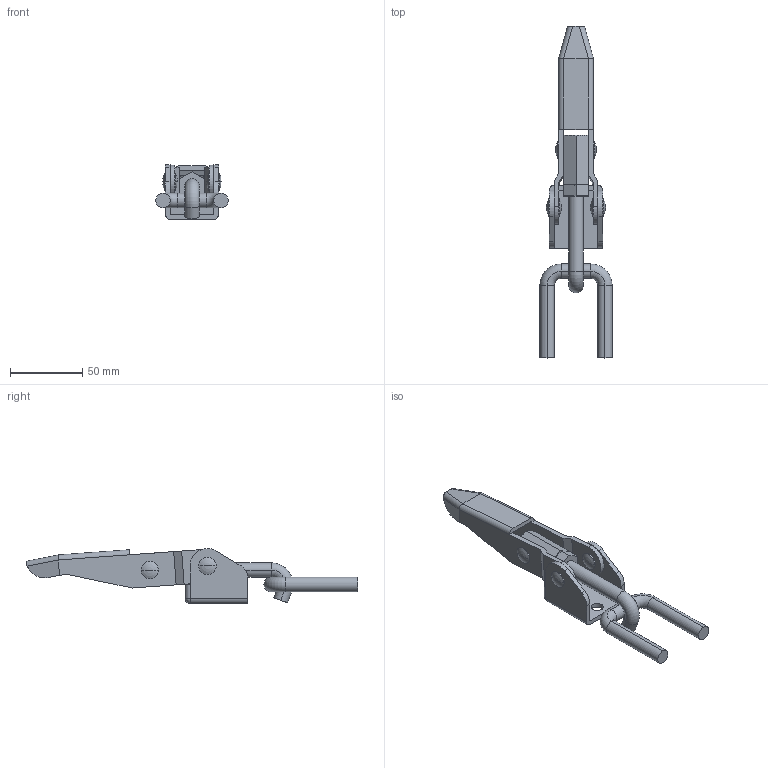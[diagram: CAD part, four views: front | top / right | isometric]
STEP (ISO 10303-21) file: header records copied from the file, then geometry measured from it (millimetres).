
FILE_DESCRIPTION(('CATIA V5 STEP Exchange'),'2;1');
FILE_NAME('D:\Model\toggle\toggle_standard\KJF_030_41F.stp','2005-06-24T03:14:36+00:00',('none'),('none'),'CATIA Version 5 Release 11 (IN-9)','CATIA V5 STEP AP203',' none');
FILE_SCHEMA(('CONFIG_CONTROL_DESIGN'));
Length unit declared in the file: millimetre
Products named in the file (1): Part1
Bounding box: 50 x 229.36 x 37.98 mm (x, y, z)
Volume: 62228.5 mm3; surface area: 38258.3 mm2
Topology: 9 solids, 9 shells, 178 faces, 438 edges, 270 vertices
Faces by surface type: cylinder 74, plane 70, cone 14, sphere 12, torus 6, bspline 2
Entity records: 5217 total; most frequent: CARTESIAN_POINT 1418, ORIENTED_EDGE 848, DIRECTION 586, EDGE_CURVE 424, AXIS2_PLACEMENT_3D 278, VERTEX_POINT 270, EDGE_LOOP 208, VECTOR 196
